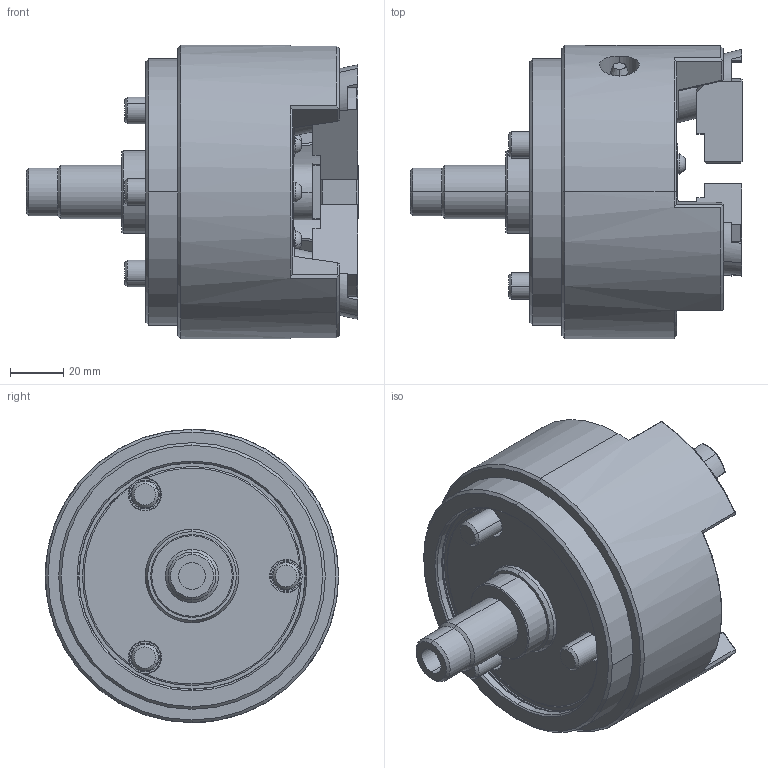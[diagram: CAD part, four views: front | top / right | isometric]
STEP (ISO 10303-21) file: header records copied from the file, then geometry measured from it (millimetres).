
FILE_DESCRIPTION (( 'STEP AP214' ), '1' );
FILE_NAME ('PU204_UC.STEP', '2019-10-18T07:20:01', ( '' ), ( '' ), 'SwSTEP 2.0', 'SolidWorks 2017', '' );
FILE_SCHEMA (( 'AUTOMOTIVE_DESIGN' ));
Length unit declared in the file: millimetre
Products named in the file (4): 結合; 0030106016; 61P443069; PU204_UC
Assembly tree (7 placements, depth 2):
  PU204_UC
    61P443069  x3
    0030106016  x3
    結合
Bounding box: 124.5 x 110 x 110 mm (x, y, z)
Volume: 542408 mm3; surface area: 81977.9 mm2
Topology: 7 solids, 8 shells, 962 faces, 2449 edges, 1554 vertices
Faces by surface type: plane 494, cone 167, cylinder 146, bspline 124, torus 31
Entity records: 31313 total; most frequent: CARTESIAN_POINT 11200, ORIENTED_EDGE 4422, DIRECTION 3685, EDGE_CURVE 2211, VERTEX_POINT 1420, AXIS2_PLACEMENT_3D 1247, LINE 1191, VECTOR 1191
